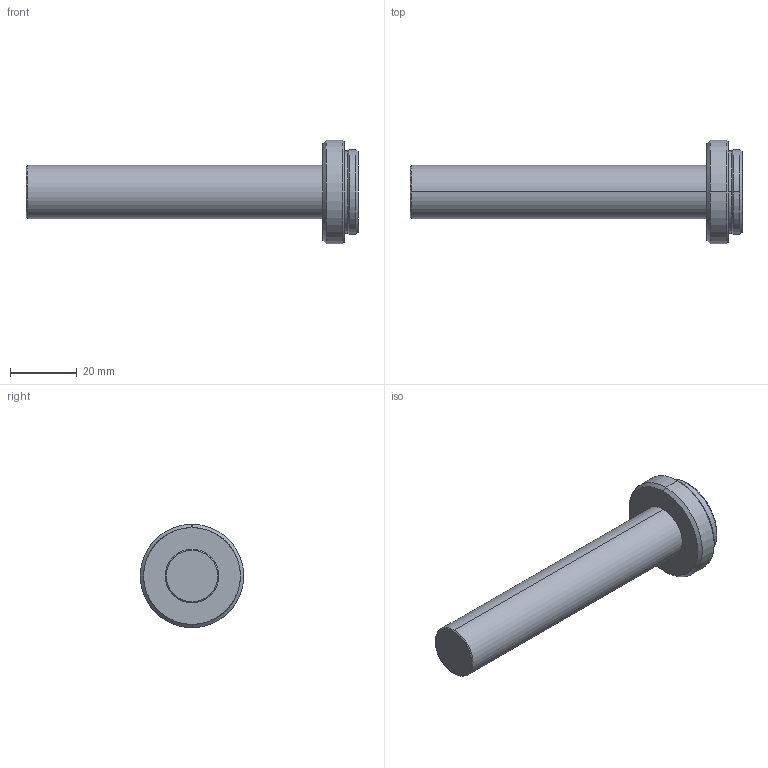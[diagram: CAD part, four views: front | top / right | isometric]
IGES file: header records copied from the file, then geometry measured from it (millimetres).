
Start section: SolidWorks IGES file using analytic representation for surfaces
Global section: file name: C:\Users\miura_vst\Desktop\3D\HP提出用過去の分確認\ok VS-TC1-65-16\VS-TC1-65-16.IGS; native system: SolidWorks 2015; preprocessor: SolidWorks 2015; author: miura_vst; date: 150828.144528; units: millimetre
Bounding box: 99.4 x 31 x 31 mm (x, y, z)
Surface area: 6847.1 mm2 (no closed solid volume)
Topology: 0 solids, 0 shells, 22 faces, 328 edges, 328 vertices
Faces by surface type: revolution 18, bspline 4
